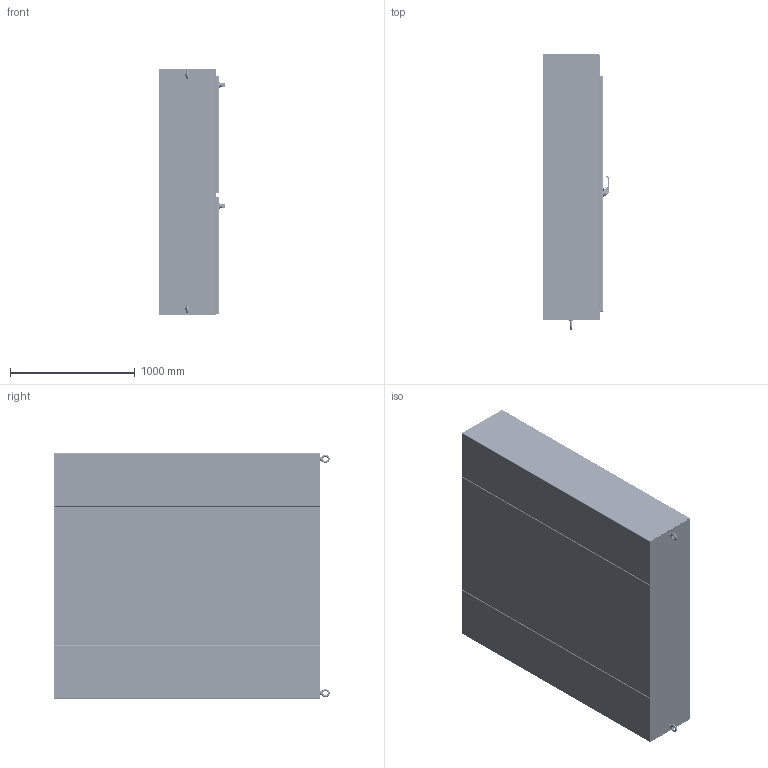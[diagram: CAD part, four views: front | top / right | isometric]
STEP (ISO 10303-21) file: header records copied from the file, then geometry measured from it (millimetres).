
FILE_DESCRIPTION((''),'2;1');
FILE_NAME('MODEL-136_ASM','2024-05-23T14:13:09',('joshi'),('SAGINAW CONTROL & ENGINEERING'),'CREO PARAMETRIC BY PTC INC, 2021284','CREO PARAMETRIC BY PTC INC, 2021284','');
FILE_SCHEMA(('AUTOMOTIVE_DESIGN { 1 0 10303 214 1 1 1 1 }'));
Length unit declared in the file: inch
Products named in the file (149): MODEL-136-TP; MODEL-136-R-SD; MODEL-136-L-SD; MODEL-136-BTM; MODEL-136-BCK; MODEL-136-M-DR; 100837; 111267; 100882; 100953_SCREW_MTG; 100953_PADLOCK_CATCH; 100953_SCREW_LARGE; 100953_INSERT_SHAFT; 100953_INSERT_PCH; 100953_GASKET; 100953_O-RING; 100953_BASE; 100953_SPRING; 100953_HANDLE; 100953_CAM_SHAFT; 100953_HANDLE_ASM; 100953_CAM_ADAPTER; 100953_EARTH_NUT; 100953_FLANGE_NUT; 100953_CAM_NUT; 100953_CP_INSERT; 100953_SPRING_CAM; 100953_TORSION_SPRING; 100953_SCREW_INSERT; 100953_ASM; 102237; 100030; 102237_ASM; MODEL-136-ROD-UPR-MD; 128146; 128145; 128144; 102482; MODEL-136-ROD-UPR-MD_ASM; 128143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
Assembly tree (328 placements, depth 5):
  MODEL-136_ASM
    MODEL-136-TP
    MODEL-136-R-SD
    MODEL-136-L-SD
    MODEL-136-BTM
    MODEL-136-BCK
    MODEL-136-M-DOOR-ASSY_ASM
      MODEL-136-M-DR
      100837  x7
      111267
      100882  x12
      100953_ASM
        100953_SCREW_MTG
        100953_PADLOCK_CATCH
        100953_SCREW_LARGE  x2
        100953_INSERT_SHAFT
        100953_INSERT_PCH
        100953_GASKET
        100953_O-RING
        100953_BASE
        100953_SPRING
        100953_HANDLE_ASM
          100953_HANDLE
          100953_CAM_SHAFT
        100953_CAM_ADAPTER
        100953_EARTH_NUT
        100953_FLANGE_NUT
        100953_CAM_NUT
        100953_CP_INSERT
        100953_SPRING_CAM
        100953_TORSION_SPRING
        100953_SCREW_INSERT
      102237_ASM
        102237
        100030  x2
      MODEL-136-ROD-UPR-MD_ASM
        MODEL-136-ROD-UPR-MD
        128146
        128145
        128144
        102482  x2
      128143  x2
      112504  x2
      MODEL-136-ROD-LWR-MD_ASM
        MODEL-136-ROD-LWR-MD
        128146
        128145
        128144
        102482  x2
      MODEL-136-PR-GSKT-M
      128257_ASM  x4
        128257
      126393  x4
      102483  x4
      101369_ASM  x4
        101369
        101369-STUD
      101221  x4
    MODEL-136-S-DOOR-ASSY_ASM
      MODEL-136-S-DR
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Bounding box: 535.27 x 2208.4 x 1974.85 mm (x, y, z)
Volume: 53435474 mm3; surface area: 35115195.7 mm2
Topology: 358 solids, 358 shells, 27240 faces, 68881 edges, 42350 vertices
Faces by surface type: plane 9494, cylinder 7057, bspline 6120, torus 2103, cone 1550, sphere 856, extrusion 60
Entity records: 686460 total; most frequent: CARTESIAN_POINT 280269, ORIENTED_EDGE 62648, DIRECTION 57198, PRESENTATION_STYLE_ASSIGNMENT 31491, STYLED_ITEM 31462, CURVE_STYLE 31324, EDGE_CURVE 31324, AXIS2_PLACEMENT_3D 21185
